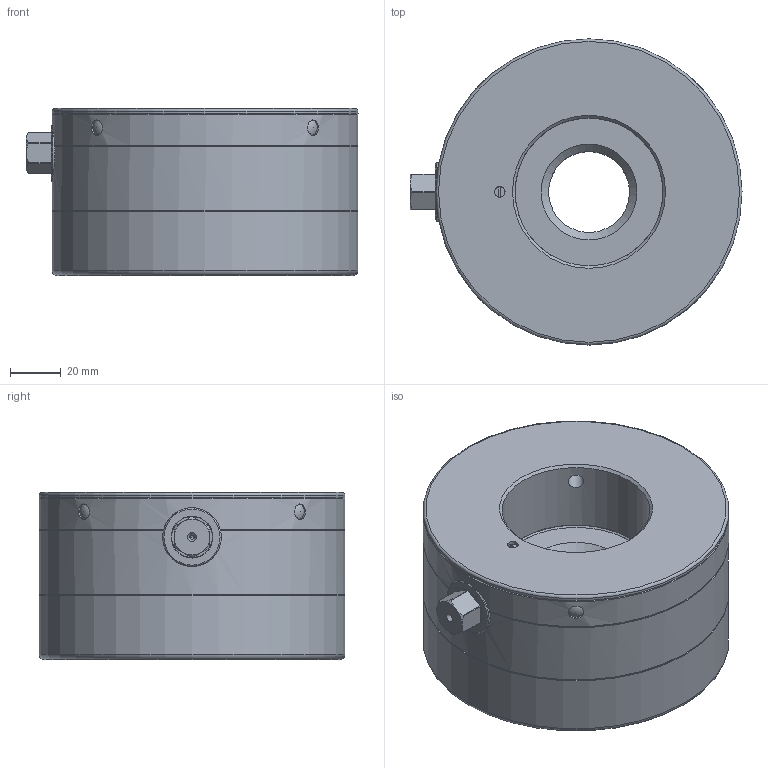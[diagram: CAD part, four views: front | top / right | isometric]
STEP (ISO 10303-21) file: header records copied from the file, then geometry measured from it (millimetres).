
FILE_DESCRIPTION(/* description */ ('Unknown','CAx-IF Rec.Pracs.---Representation and Presentation of Product Manufacturing Information (PMI)---4.0---2014-10-13','CAx-IF Rec.Pracs.---3D Tessellated Geometry---0.4---2014-09-14','2;1'),/* implementation_level */ '2;1');
FILE_NAME(/* name */ 'MDR 150 - M36 - SW14',/* time_stamp */ '2023-09-26T12:03:17+02:00',/* author */ ('Unknown'),/* organization */ ('Unknown'),/* preprocessor_version */ 'ST-DEVELOPER v18.102',/* originating_system */ 'Solid Edge',/* authorisation */ 'Unknown');
FILE_SCHEMA (('AP242_MANAGED_MODEL_BASED_3D_ENGINEERING_MIM_LF { 1 0 10303 442 1 1 4 }'));
Length unit declared in the file: millimetre
Products named in the file (1): 16332764_Vereinfachung
Bounding box: 130.2 x 120 x 65.5 mm (x, y, z)
Volume: 631421.2 mm3; surface area: 58660.3 mm2
Topology: 1 solids, 1 shells, 96 faces, 229 edges, 144 vertices
Faces by surface type: plane 31, cone 27, cylinder 27, sphere 8, torus 3
Full cylindrical faces by diameter (mm): 1.6 x2, 4.134 x1, 6 x8, 12 x1, 16 x1, 31.67 x1, 52 x1, 58 x1, 67 x1, 119 x1, 120 x4
Entity records: 3067 total; most frequent: CARTESIAN_POINT 546, DIRECTION 394, ORIENTED_EDGE 294, AXIS2_PLACEMENT_3D 182, FACE_BOUND 162, EDGE_LOOP 160, EDGE_CURVE 147, VERTEX_POINT 117
